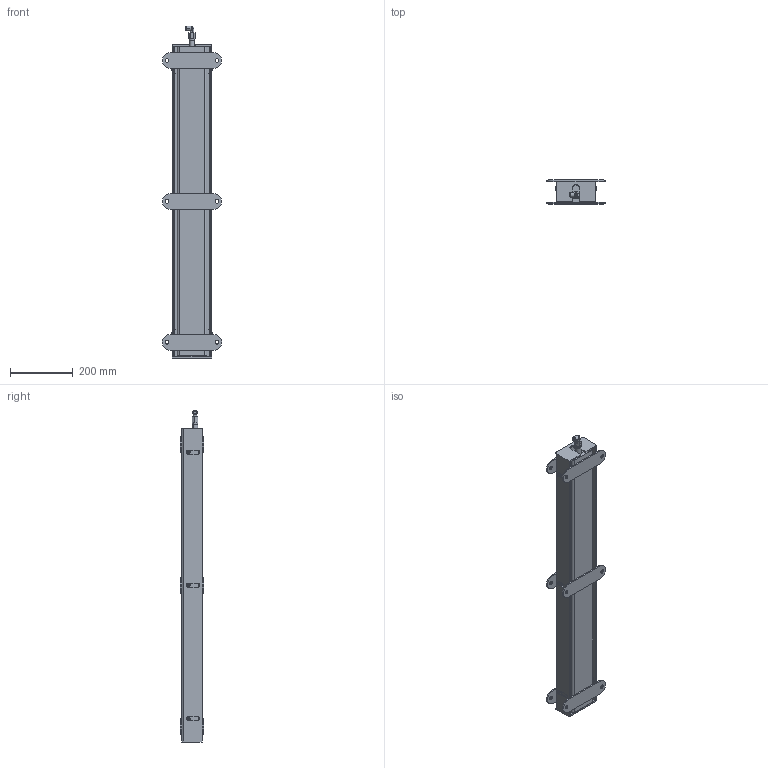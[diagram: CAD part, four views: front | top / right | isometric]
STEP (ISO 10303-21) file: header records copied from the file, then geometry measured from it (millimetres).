
FILE_DESCRIPTION (( 'STEP AP214' ), '1' );
FILE_NAME ('ALB-SB-1000_L.STEP', '2013-03-15T07:13:25', ( '' ), ( '' ), '', '', '' );
FILE_SCHEMA (( 'AUTOMOTIVE_DESIGN' ));
Length unit declared in the file: millimetre
Products named in the file (6): ALB-SB-1000_L; KQ2LF10_03A; SGGD10A_50; CB10_12; frame1; frame2
Assembly tree (10 placements, depth 2):
  ALB-SB-1000_L
    frame2
    frame1
    CB10_12  x6
    SGGD10A_50
    KQ2LF10_03A
Bounding box: 190 x 75 x 1060 mm (x, y, z)
Volume: 2349110.1 mm3; surface area: 1080691.6 mm2
Topology: 22 solids, 22 shells, 397 faces, 942 edges, 591 vertices
Faces by surface type: plane 203, cylinder 145, cone 47, sphere 2
Entity records: 8878 total; most frequent: DIRECTION 1500, CARTESIAN_POINT 1432, ORIENTED_EDGE 1332, EDGE_CURVE 666, AXIS2_PLACEMENT_3D 554, VERTEX_POINT 436, VECTOR 392, LINE 392
